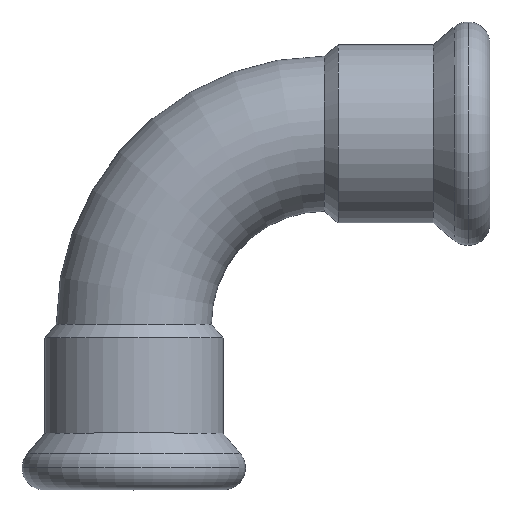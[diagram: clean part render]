
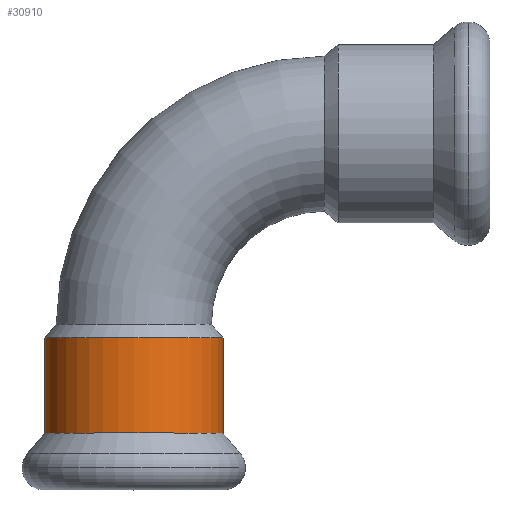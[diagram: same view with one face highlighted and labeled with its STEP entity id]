
A CAD part, top view. The second image highlights one B-rep face of the part: STEP entity #30910.
In plain terms, the highlighted cylindrical face has radius 12.65 mm (diameter 25.3 mm), a partial arc.
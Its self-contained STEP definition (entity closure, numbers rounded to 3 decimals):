
#17330=CARTESIAN_POINT('',(-290.325,27.085,
0.));
#17340=VERTEX_POINT('',#17330);
#17370=CARTESIAN_POINT('',(-290.325,14.435,
0.));
#17380=DIRECTION('',(1.,0.,0.));
#17390=DIRECTION('',(0.,1.,0.));
#17400=AXIS2_PLACEMENT_3D('',#17370,#17380,#17390);
#17410=CIRCLE('',#17400,12.65);
#17420=CARTESIAN_POINT('',(-290.325,1.785,
0.));
#17430=VERTEX_POINT('',#17420);
#17440=EDGE_CURVE('',#17340,#17430,#17410,.T.);
#17560=CARTESIAN_POINT('',(-283.585,14.435,
0.));
#17570=DIRECTION('',(-1.,0.,0.));
#17580=DIRECTION('',(0.,1.,0.));
#17590=AXIS2_PLACEMENT_3D('',#17560,#17570,#17580);
#17600=CYLINDRICAL_SURFACE('',#17590,12.65);
#17610=CARTESIAN_POINT('',(-283.585,1.785,
0.));
#17620=DIRECTION('',(-1.,0.,0.));
#17630=VECTOR('',#17620,1.);
#17640=LINE('',#17610,#17630);
#17650=CARTESIAN_POINT('',(-276.833,1.785,
0.));
#17660=VERTEX_POINT('',#17650);
#17670=EDGE_CURVE('',#17660,#17430,#17640,.T.);
#17690=CARTESIAN_POINT('',(-276.833,14.435,
0.));
#17700=DIRECTION('',(1.,0.,0.));
#17710=DIRECTION('',(0.,1.,0.));
#17720=AXIS2_PLACEMENT_3D('',#17690,#17700,#17710);
#17730=CIRCLE('',#17720,12.65);
#17740=CARTESIAN_POINT('',(-276.833,27.085,
0.));
#17750=VERTEX_POINT('',#17740);
#17780=CARTESIAN_POINT('',(-283.585,27.085,
0.));
#17790=DIRECTION('',(-1.,0.,0.));
#17800=VECTOR('',#17790,1.);
#17810=LINE('',#17780,#17800);
#17820=EDGE_CURVE('',#17750,#17340,#17810,.T.);
#30840=EDGE_CURVE('',#17750,#17660,#17730,.T.);
#30850=ORIENTED_EDGE('',*,*,#30840,.F.);
#30860=ORIENTED_EDGE('',*,*,#17670,.F.);
#30870=ORIENTED_EDGE('',*,*,#17440,.T.);
#30880=ORIENTED_EDGE('',*,*,#17820,.T.);
#30890=EDGE_LOOP('',(#30880,#30870,#30860,#30850));
#30900=FACE_OUTER_BOUND('',#30890,.T.);
#30910=ADVANCED_FACE('',(#30900),#17600,.T.);
